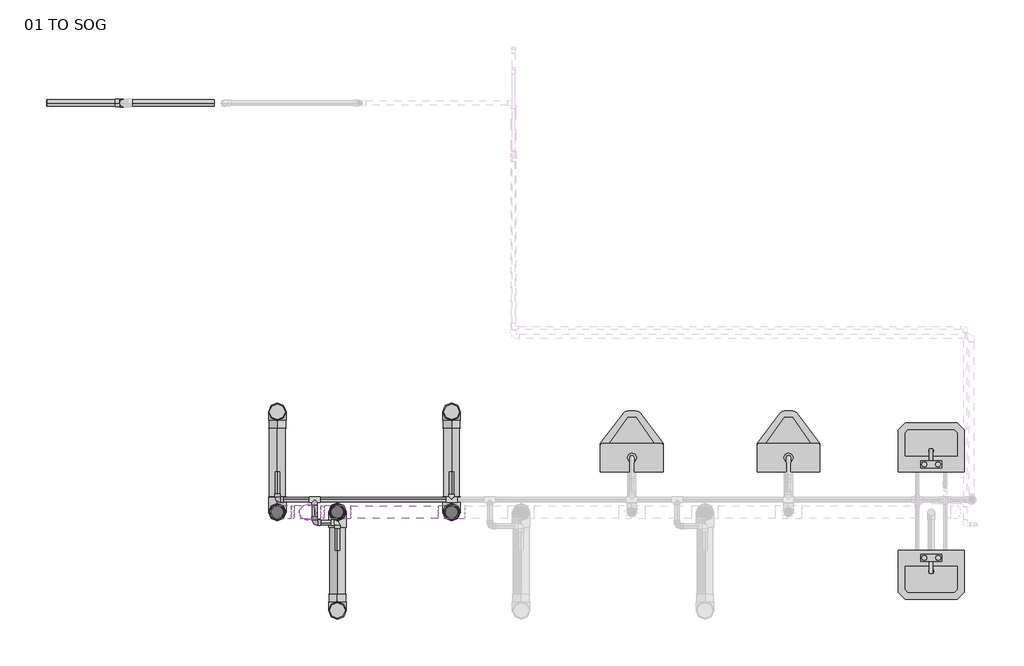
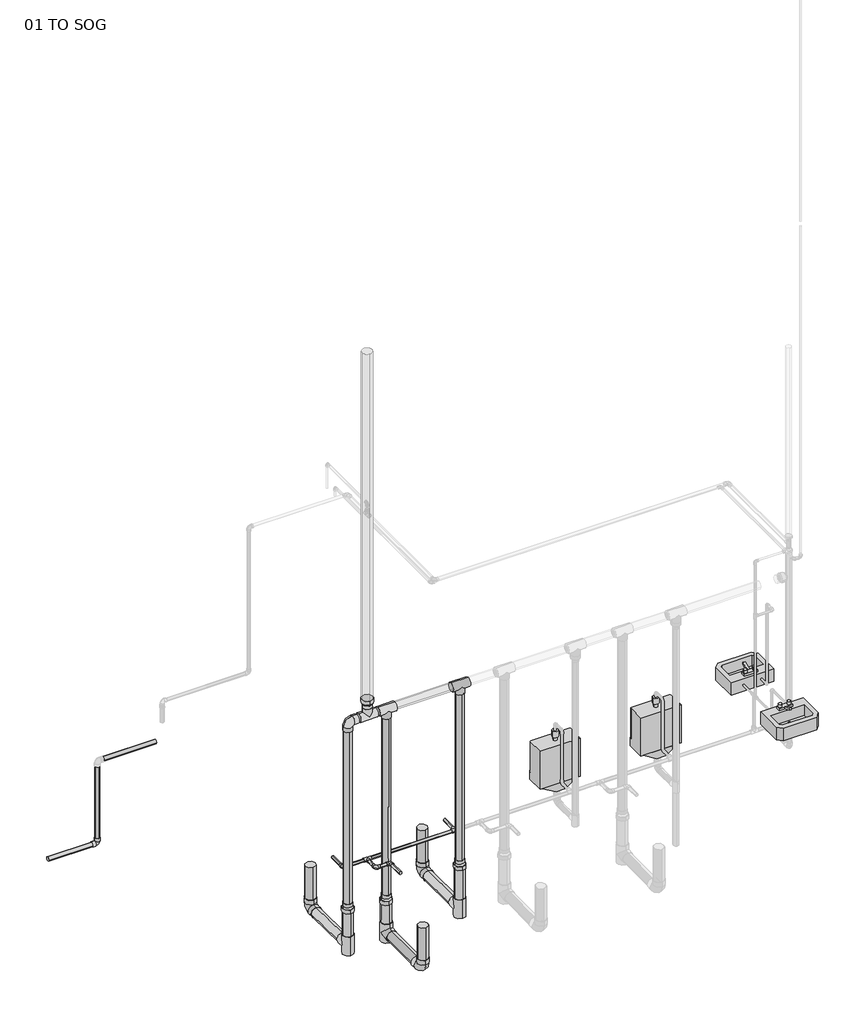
# One storey, part 1 of 4: 26 pipe segments, 20 pipe fittings, 4 flow terminals.
"""IFC4 building model written with IfcOpenShell, lengths in millimetres."""

from ifc_helpers import new_model, si_unit, point, frame, frame_2d, origin, place, context, project, spatial, circle_curve, trimmed, segment, composite_curve, outline, extrude, transform, mapped, element, save
from components import lavatory_wall_mounted_ac7d0257, urinal_wall_hung_30bb5849, elbow_pvc_sch_40_standard_c47e97bb, elbow_pvc_sch_40_standard_3ccf74f3, elbow_pvc_sch_40_standard_517a5a8d, elbow_pvc_sch_40_standard_abbfb362, reducer_pvc_sch_40_dwv_standard_bc2808fd, tee_pvc_sch_40_standard_9cddf13a, tee_pvc_sch_40_standard_9261842d, tee_pvc_sch_40_standard_72b35c3b

model = new_model("IFC4")

# Units and contexts
model_context = context("Model", 3, world=origin())
ifc_project = project(units=[si_unit("LENGTHUNIT", "METRE", prefix="MILLI")], contexts=[model_context])

# Site, building, storey
site = spatial("IfcSite", under=ifc_project)
building = spatial("IfcBuilding", under=site)
storey = spatial("IfcBuildingStorey", under=building, Name="01 TO SOG", Elevation=0.0)

# Flow terminals
placement = place(None, origin())
lavatory_wall_mounted_shape = lavatory_wall_mounted_ac7d0257(model_context)
element("IfcFlowTerminal", 1, ObjectType="Lavatory - Wall Mounted : D2010310_Lavatory_19\"x14\"Public", at=placement, inside=storey, context=model_context, shape_type="MappedRepresentation", body=[
    mapped(lavatory_wall_mounted_shape, transform((-12628.8862378, -4144.3703325, 863.1219792), x_axis=(-1.0, 0.0, 0.0), y_axis=(0.0, 0.0, 1.0), z_axis=(0.0, 1.0, 0.0))),
])
element("IfcFlowTerminal", 2, ObjectType="Lavatory - Wall Mounted : D2010310_Lavatory_19\"x14\"Public", at=placement, inside=storey, context=model_context, shape_type="MappedRepresentation", body=[
    mapped(lavatory_wall_mounted_shape, transform((-12628.3542617, -4719.0453325, 863.6), x_axis=(1.0, 0.0, 0.0), y_axis=(0.0, 0.0, 1.0), z_axis=(0.0, -1.0, 0.0))),
])
urinal_wall_hung_shape = urinal_wall_hung_30bb5849(model_context)
element("IfcFlowTerminal", 3, ObjectType="Urinal - Wall Hung : D2010210_Urinal_WallHung_3/4\" FlushValve", at=placement, inside=storey, context=model_context, shape_type="MappedRepresentation", body=[
    mapped(urinal_wall_hung_shape, transform((-14812.7542617, -4144.3703325, 431.8), x_axis=(-1.0, 0.0, 0.0), y_axis=(0.0, 0.0, 1.0), z_axis=(0.0, 1.0, 0.0))),
])
element("IfcFlowTerminal", 4, ObjectType="Urinal - Wall Hung : D2010210_Urinal_WallHung_3/4\" FlushValve", at=placement, inside=storey, context=model_context, shape_type="MappedRepresentation", body=[
    mapped(urinal_wall_hung_shape, transform((-13669.7542617, -4144.3703325, 431.8), x_axis=(-1.0, 0.0, 0.0), y_axis=(0.0, 0.0, 1.0), z_axis=(0.0, 1.0, 0.0))),
])

# Pipe fittings
elbow_pvc_sch_40_standard_shape = elbow_pvc_sch_40_standard_c47e97bb(model_context)
element("IfcPipeFitting", 5, ObjectType="Elbow - PVC - Sch 40 : Standard", at=placement, inside=storey, context=model_context, shape_type="MappedRepresentation", body=[
    mapped(elbow_pvc_sch_40_standard_shape, transform((-17399.6186686, -3706.2203325, -508.0), x_axis=(0.0, 0.0, -1.0), y_axis=(0.0, -1.0, 0.0), z_axis=(-1.0, 0.0, 0.0))),
])
element("IfcPipeFitting", 6, ObjectType="Elbow - PVC - Sch 40 : Standard", at=placement, inside=storey, context=model_context, shape_type="MappedRepresentation", body=[
    mapped(elbow_pvc_sch_40_standard_shape, transform((-16128.0974824, -3706.2203325, -508.0), x_axis=(0.0, 0.0, -1.0), y_axis=(0.0, -1.0, 0.0), z_axis=(-1.0, 0.0, 0.0))),
])
element("IfcPipeFitting", 7, ObjectType="Elbow - PVC - Sch 40 : Standard", at=placement, inside=storey, context=model_context, shape_type="MappedRepresentation", body=[
    mapped(elbow_pvc_sch_40_standard_shape, transform((-16961.4686686, -5157.1953325, -508.0), x_axis=(0.0, 0.0, -1.0), y_axis=(0.0, 1.0, 0.0), z_axis=(1.0, 0.0, 0.0))),
])
elbow_pvc_sch_40_standard_2_shape = elbow_pvc_sch_40_standard_3ccf74f3(model_context)
element("IfcPipeFitting", 8, ObjectType="Elbow - PVC - Sch 40 : Standard", at=placement, inside=storey, context=model_context, shape_type="MappedRepresentation", body=[
    mapped(elbow_pvc_sch_40_standard_2_shape, transform((-17399.6186686, -4439.7857603, 2163.7752), x_axis=(-1.0, 0.0, 0.0), y_axis=(0.0, 0.0, -1.0), z_axis=(0.0, -1.0, 0.0))),
])
elbow_pvc_sch_40_standard_3_shape = elbow_pvc_sch_40_standard_517a5a8d(model_context)
element("IfcPipeFitting", 9, ObjectType="Elbow - PVC - Sch 40 : Standard", at=placement, inside=storey, context=model_context, shape_type="MappedRepresentation", body=[
    mapped(elbow_pvc_sch_40_standard_3_shape, transform((-17399.6186686, -4347.5703325, 355.6), x_axis=(0.0, -1.0, 0.0), y_axis=(1.0, 0.0, 0.0), z_axis=(0.0, 0.0, 1.0))),
])
element("IfcPipeFitting", 10, ObjectType="Elbow - PVC - Sch 40 : Standard", at=placement, inside=storey, context=model_context, shape_type="MappedRepresentation", body=[
    mapped(elbow_pvc_sch_40_standard_3_shape, transform((-16961.4686686, -4515.8453325, 355.6), x_axis=(0.0, 1.0, 0.0), y_axis=(-1.0, 0.0, 0.0), z_axis=(0.0, 0.0, 1.0))),
])
element("IfcPipeFitting", 11, ObjectType="Elbow - PVC - Sch 40 : Standard", at=placement, inside=storey, context=model_context, shape_type="MappedRepresentation", body=[
    mapped(elbow_pvc_sch_40_standard_3_shape, transform((-17126.5686686, -4515.8453325, 355.6), x_axis=(0.0, -1.0, 0.0), y_axis=(1.0, 0.0, 0.0), z_axis=(0.0, 0.0, 1.0))),
])
elbow_pvc_sch_40_standard_4_shape = elbow_pvc_sch_40_standard_abbfb362(model_context)
element("IfcPipeFitting", 12, ObjectType="Elbow - PVC - Sch 40 : Standard", at=placement, inside=storey, context=model_context, shape_type="MappedRepresentation", body=[
    mapped(elbow_pvc_sch_40_standard_4_shape, transform((-18520.3605117, -1451.9703325, -711.2), x_axis=(0.0, 0.0, -1.0), y_axis=(-1.0, 0.0, 0.0), z_axis=(0.0, 1.0, 0.0))),
])
reducer_pvc_sch_40_dwv_standard_shape = reducer_pvc_sch_40_dwv_standard_bc2808fd(model_context)
element("IfcPipeFitting", 13, ObjectType="Reducer - PVC - Sch 40 - DWV : Standard", at=placement, inside=storey, context=model_context, shape_type="MappedRepresentation", body=[
    mapped(reducer_pvc_sch_40_dwv_standard_shape, transform((-16128.0974824, -4439.7857603, 72.7415065), x_axis=(0.0, 0.0, -1.0), y_axis=(1.0, 0.0, 0.0), z_axis=(0.0, -1.0, 0.0))),
])
element("IfcPipeFitting", 14, ObjectType="Reducer - PVC - Sch 40 - DWV : Standard", at=placement, inside=storey, context=model_context, shape_type="MappedRepresentation", body=[
    mapped(reducer_pvc_sch_40_dwv_standard_shape, transform((-17399.6186686, -4439.7857603, -3.4584935), x_axis=(0.0, 0.0, -1.0), y_axis=(1.0, 0.0, 0.0), z_axis=(0.0, -1.0, 0.0))),
])
element("IfcPipeFitting", 15, ObjectType="Reducer - PVC - Sch 40 - DWV : Standard", at=placement, inside=storey, context=model_context, shape_type="MappedRepresentation", body=[
    mapped(reducer_pvc_sch_40_dwv_standard_shape, transform((-16961.4686686, -4436.2966246, -54.4449557), x_axis=(0.0, 0.0015729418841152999, -0.9999987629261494), y_axis=(-1.0, 4.344944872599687e-12, 0.0), z_axis=(4.34495024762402e-12, 0.9999987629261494, 0.0015729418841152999))),
])
element("IfcPipeFitting", 16, ObjectType="Reducer - PVC - Sch 40 - DWV : Standard", at=placement, inside=storey, context=model_context, shape_type="MappedRepresentation", body=[
    mapped(reducer_pvc_sch_40_dwv_standard_shape, transform((-17177.9687436, -4439.7857603, 2260.6254), x_axis=(0.0, 0.0, 1.0), y_axis=(1.0, 0.0, 0.0), z_axis=(0.0, 1.0, 0.0))),
])
tee_pvc_sch_40_standard_shape = tee_pvc_sch_40_standard_9cddf13a(model_context)
element("IfcPipeFitting", 17, ObjectType="Tee - PVC - Sch 40 : Standard", at=placement, inside=storey, context=model_context, shape_type="MappedRepresentation", body=[
    mapped(tee_pvc_sch_40_standard_shape, transform((-17399.6186686, -4439.7857603, -500.3586935), x_axis=(0.0, 0.0, 1.0), y_axis=(0.0, -1.0, 0.0), z_axis=(1.0, 0.0, 0.0))),
])
element("IfcPipeFitting", 18, ObjectType="Tee - PVC - Sch 40 : Standard", at=placement, inside=storey, context=model_context, shape_type="MappedRepresentation", body=[
    mapped(tee_pvc_sch_40_standard_shape, transform((-16128.0974824, -4439.7857603, -500.3586935), x_axis=(0.0, 0.0, 1.0), y_axis=(0.0, -1.0, 0.0), z_axis=(1.0, 0.0, 0.0))),
])
element("IfcPipeFitting", 19, ObjectType="Tee - PVC - Sch 40 : Standard", at=placement, inside=storey, context=model_context, shape_type="MappedRepresentation", body=[
    mapped(tee_pvc_sch_40_standard_shape, transform((-16961.4686686, -4439.7857603, -500.5269836), x_axis=(0.0, 0.0, 1.0), y_axis=(0.0, 1.0, 0.0), z_axis=(-1.0, 0.0, 0.0))),
])
tee_pvc_sch_40_standard_2_shape = tee_pvc_sch_40_standard_9261842d(model_context)
element("IfcPipeFitting", 20, ObjectType="Tee - PVC - Sch 40 : Standard", at=placement, inside=storey, context=model_context, shape_type="MappedRepresentation", body=[
    mapped(tee_pvc_sch_40_standard_2_shape, transform((-16128.0974824, -4439.7857603, 2163.7752), x_axis=(1.0, 0.0, 0.0), y_axis=(0.0, 0.0, 1.0), z_axis=(0.0, -1.0, 0.0))),
])
element("IfcPipeFitting", 21, ObjectType="Tee - PVC - Sch 40 : Standard", at=placement, inside=storey, context=model_context, shape_type="MappedRepresentation", body=[
    mapped(tee_pvc_sch_40_standard_2_shape, transform((-16961.4686686, -4439.7857603, 2163.7752), x_axis=(-1.0, 0.0, 0.0), y_axis=(0.0, -0.0015729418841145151, 0.9999987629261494), z_axis=(0.0, 0.9999987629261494, 0.0015729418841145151))),
])
element("IfcPipeFitting", 22, ObjectType="Tee - PVC - Sch 40 : Standard", at=placement, inside=storey, context=model_context, shape_type="MappedRepresentation", body=[
    mapped(tee_pvc_sch_40_standard_2_shape, transform((-17177.9687436, -4439.7857603, 2163.7752), x_axis=(-1.0, 0.0, 0.0), y_axis=(0.0, 0.0, -1.0), z_axis=(0.0, -1.0, 0.0))),
])
tee_pvc_sch_40_standard_3_shape = tee_pvc_sch_40_standard_72b35c3b(model_context)
element("IfcPipeFitting", 23, ObjectType="Tee - PVC - Sch 40 : Standard", at=placement, inside=storey, context=model_context, shape_type="MappedRepresentation", body=[
    mapped(tee_pvc_sch_40_standard_3_shape, transform((-17126.5686686, -4347.5703325, 355.6), x_axis=(-1.0, 0.0, 0.0), y_axis=(0.0, 1.0, 0.0), z_axis=(0.0, 0.0, -1.0))),
])
element("IfcPipeFitting", 24, ObjectType="Tee - PVC - Sch 40 : Standard", at=placement, inside=storey, context=model_context, shape_type="MappedRepresentation", body=[
    mapped(tee_pvc_sch_40_standard_3_shape, transform((-16128.0974824, -4347.5703325, 355.6), x_axis=(-1.0, 0.0, 0.0), y_axis=(0.0, -1.0, 0.0), z_axis=(0.0, 0.0, 1.0))),
])

# Pipe segments
element("IfcPipeSegment", 25, ObjectType="Standard", at=placement, inside=storey, context=model_context, shape_type="SweptSolid", body=[
    extrude(outline(composite_curve([segment(trimmed(circle_curve(frame_2d((-17399.6186686, -3706.2203325)), 57.15), [point((-17342.4686686, -3706.2203325))], [point((-17399.6186686, -3763.3703325))], False, "CARTESIAN"), True, "CONTINUOUS"), segment(trimmed(circle_curve(frame_2d((-17399.6186686, -3706.2203325)), 57.15), [point((-17399.6186686, -3763.3703325))], [point((-17456.7686686, -3706.2203325))], False, "CARTESIAN"), True, "CONTINUOUS"), segment(trimmed(circle_curve(frame_2d((-17399.6186686, -3706.2203325)), 57.15), [point((-17456.7686686, -3706.2203325))], [point((-17399.6186686, -3649.0703325))], False, "CARTESIAN"), True, "CONTINUOUS"), segment(trimmed(circle_curve(frame_2d((-17399.6186686, -3706.2203325)), 57.15), [point((-17399.6186686, -3649.0703325))], [point((-17342.4686686, -3706.2203325))], False, "CARTESIAN"), True, "CONTINUOUS")], self_intersect=False)), frame((0.0, 0.0, -390.6328354), z_axis=(0.0, 0.0, 1.0), x_axis=(1.0, 0.0, 0.0)), (0.0, 0.0, 1.0), 390.6328354),
])
element("IfcPipeSegment", 26, ObjectType="Standard", at=placement, inside=storey, context=model_context, shape_type="SweptSolid", body=[
    extrude(outline(composite_curve([segment(trimmed(circle_curve(frame_2d((0.0, -57.15)), 57.15), [point((57.15, -57.15))], [point((0.0, -114.3000001))], False, "CARTESIAN"), True, "CONTINUOUS"), segment(trimmed(circle_curve(frame_2d((0.0, -57.15)), 57.15), [point((0.0, -114.3000001))], [point((-57.15, -57.15))], False, "CARTESIAN"), True, "CONTINUOUS"), segment(trimmed(circle_curve(frame_2d((0.0, -57.15)), 57.15), [point((-57.15, -57.15))], [point((0.0, 0.0))], False, "CARTESIAN"), True, "CONTINUOUS"), segment(trimmed(circle_curve(frame_2d((0.0, -57.15)), 57.15), [point((0.0, 0.0))], [point((57.15, -57.15))], False, "CARTESIAN"), True, "CONTINUOUS")], self_intersect=False)), frame((-17399.6186686, -3822.9858499, -449.630592), z_axis=(0.0, -0.9999457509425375, 0.010416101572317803), x_axis=(1.0, 0.0, 0.0)), (0.0, 0.0, 1.0), 505.1130605),
])
element("IfcPipeSegment", 27, ObjectType="Standard", at=placement, inside=storey, context=model_context, shape_type="SweptSolid", body=[
    extrude(outline(composite_curve([segment(trimmed(circle_curve(frame_2d((-17399.6186686, -4439.7857603)), 57.15), [point((-17456.7686686, -4439.7857603))], [point((-17399.6186686, -4382.6357603))], False, "CARTESIAN"), True, "CONTINUOUS"), segment(trimmed(circle_curve(frame_2d((-17399.6186686, -4439.7857603)), 57.15), [point((-17399.6186686, -4382.6357603))], [point((-17342.4686686, -4439.7857603))], False, "CARTESIAN"), True, "CONTINUOUS"), segment(trimmed(circle_curve(frame_2d((-17399.6186686, -4439.7857603)), 57.15), [point((-17342.4686686, -4439.7857603))], [point((-17399.6186686, -4496.9357603))], False, "CARTESIAN"), True, "CONTINUOUS"), segment(trimmed(circle_curve(frame_2d((-17399.6186686, -4439.7857603)), 57.15), [point((-17399.6186686, -4496.9357603))], [point((-17456.7686686, -4439.7857603))], False, "CARTESIAN"), True, "CONTINUOUS")], self_intersect=False)), frame((0.0, 0.0, -389.2336935), z_axis=(0.0, 0.0, 1.0), x_axis=(1.0, 0.0, 0.0)), (0.0, 0.0, 1.0), 279.4),
])
element("IfcPipeSegment", 28, ObjectType="Standard", at=placement, inside=storey, context=model_context, shape_type="SweptSolid", body=[
    extrude(outline(composite_curve([segment(trimmed(circle_curve(frame_2d((-16128.0974824, -3706.2203325)), 57.15), [point((-16070.9474824, -3706.2203325))], [point((-16128.0974824, -3763.3703325))], False, "CARTESIAN"), True, "CONTINUOUS"), segment(trimmed(circle_curve(frame_2d((-16128.0974824, -3706.2203325)), 57.15), [point((-16128.0974824, -3763.3703325))], [point((-16185.2474824, -3706.2203325))], False, "CARTESIAN"), True, "CONTINUOUS"), segment(trimmed(circle_curve(frame_2d((-16128.0974824, -3706.2203325)), 57.15), [point((-16185.2474824, -3706.2203325))], [point((-16128.0974824, -3649.0703325))], False, "CARTESIAN"), True, "CONTINUOUS"), segment(trimmed(circle_curve(frame_2d((-16128.0974824, -3706.2203325)), 57.15), [point((-16128.0974824, -3649.0703325))], [point((-16070.9474824, -3706.2203325))], False, "CARTESIAN"), True, "CONTINUOUS")], self_intersect=False)), frame((0.0, 0.0, -390.6328354), z_axis=(0.0, 0.0, 1.0), x_axis=(1.0, 0.0, 0.0)), (0.0, 0.0, 1.0), 390.6328354),
])
element("IfcPipeSegment", 29, ObjectType="Standard", at=placement, inside=storey, context=model_context, shape_type="SweptSolid", body=[
    extrude(outline(composite_curve([segment(trimmed(circle_curve(frame_2d((0.0, -57.15)), 57.15), [point((57.15, -57.15))], [point((0.0, -114.3000001))], False, "CARTESIAN"), True, "CONTINUOUS"), segment(trimmed(circle_curve(frame_2d((0.0, -57.15)), 57.15), [point((0.0, -114.3000001))], [point((-57.15, -57.15))], False, "CARTESIAN"), True, "CONTINUOUS"), segment(trimmed(circle_curve(frame_2d((0.0, -57.15)), 57.15), [point((-57.15, -57.15))], [point((0.0, 0.0))], False, "CARTESIAN"), True, "CONTINUOUS"), segment(trimmed(circle_curve(frame_2d((0.0, -57.15)), 57.15), [point((0.0, 0.0))], [point((57.15, -57.15))], False, "CARTESIAN"), True, "CONTINUOUS")], self_intersect=False)), frame((-16128.0974824, -3822.9858499, -449.630592), z_axis=(0.0, -0.999945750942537, 0.010416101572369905), x_axis=(1.0, 0.0, 0.0)), (0.0, 0.0, 1.0), 505.1130605),
])
element("IfcPipeSegment", 30, ObjectType="Standard", at=placement, inside=storey, context=model_context, shape_type="SweptSolid", body=[
    extrude(outline(composite_curve([segment(trimmed(circle_curve(frame_2d((-16128.0974824, -4439.7857603)), 57.15), [point((-16185.2474824, -4439.7857603))], [point((-16128.0974824, -4382.6357603))], False, "CARTESIAN"), True, "CONTINUOUS"), segment(trimmed(circle_curve(frame_2d((-16128.0974824, -4439.7857603)), 57.15), [point((-16128.0974824, -4382.6357603))], [point((-16070.9474824, -4439.7857603))], False, "CARTESIAN"), True, "CONTINUOUS"), segment(trimmed(circle_curve(frame_2d((-16128.0974824, -4439.7857603)), 57.15), [point((-16070.9474824, -4439.7857603))], [point((-16128.0974824, -4496.9357603))], False, "CARTESIAN"), True, "CONTINUOUS"), segment(trimmed(circle_curve(frame_2d((-16128.0974824, -4439.7857603)), 57.15), [point((-16128.0974824, -4496.9357603))], [point((-16185.2474824, -4439.7857603))], False, "CARTESIAN"), True, "CONTINUOUS")], self_intersect=False)), frame((0.0, 0.0, -389.2336935), z_axis=(0.0, 0.0, 1.0), x_axis=(1.0, 0.0, 0.0)), (0.0, 0.0, 1.0), 355.6),
])
element("IfcPipeSegment", 31, ObjectType="Standard", at=placement, inside=storey, context=model_context, shape_type="SweptSolid", body=[
    extrude(outline(composite_curve([segment(trimmed(circle_curve(frame_2d((-16961.4686686, -5157.1953325)), 57.15), [point((-16904.3186686, -5157.1953325))], [point((-16961.4686686, -5214.3453325))], False, "CARTESIAN"), True, "CONTINUOUS"), segment(trimmed(circle_curve(frame_2d((-16961.4686686, -5157.1953325)), 57.15), [point((-16961.4686686, -5214.3453325))], [point((-17018.6186686, -5157.1953325))], False, "CARTESIAN"), True, "CONTINUOUS"), segment(trimmed(circle_curve(frame_2d((-16961.4686686, -5157.1953325)), 57.15), [point((-17018.6186686, -5157.1953325))], [point((-16961.4686686, -5100.0453325))], False, "CARTESIAN"), True, "CONTINUOUS"), segment(trimmed(circle_curve(frame_2d((-16961.4686686, -5157.1953325)), 57.15), [point((-16961.4686686, -5100.0453325))], [point((-16904.3186686, -5157.1953325))], False, "CARTESIAN"), True, "CONTINUOUS")], self_intersect=False)), frame((0.0, 0.0, -390.6328354), z_axis=(0.0, 0.0, 1.0), x_axis=(1.0, 0.0, 0.0)), (0.0, 0.0, 1.0), 390.6328354),
])
element("IfcPipeSegment", 32, ObjectType="Standard", at=placement, inside=storey, context=model_context, shape_type="SweptSolid", body=[
    extrude(outline(composite_curve([segment(trimmed(circle_curve(frame_2d((0.0, -57.15)), 57.15), [point((-57.15, -57.15))], [point((0.0, 0.0))], False, "CARTESIAN"), True, "CONTINUOUS"), segment(trimmed(circle_curve(frame_2d((0.0, -57.15)), 57.15), [point((0.0, 0.0))], [point((57.15, -57.15))], False, "CARTESIAN"), True, "CONTINUOUS"), segment(trimmed(circle_curve(frame_2d((0.0, -57.15)), 57.15), [point((57.15, -57.15))], [point((0.0, -114.3000001))], False, "CARTESIAN"), True, "CONTINUOUS"), segment(trimmed(circle_curve(frame_2d((0.0, -57.15)), 57.15), [point((0.0, -114.3000001))], [point((-57.15, -57.15))], False, "CARTESIAN"), True, "CONTINUOUS")], self_intersect=False)), frame((-16961.4686686, -5039.2392547, -563.9243914), z_axis=(0.0, 0.999945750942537, 0.010416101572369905), x_axis=(1.0, 0.0, 0.0)), (0.0, 0.0, 1.0), 488.9563285),
])
element("IfcPipeSegment", 33, ObjectType="Standard", at=placement, inside=storey, context=model_context, shape_type="SweptSolid", body=[
    extrude(outline(composite_curve([segment(trimmed(circle_curve(frame_2d((0.0, 57.15)), 57.15), [point((57.15, 57.15))], [point((0.0, 0.0))], False, "CARTESIAN"), True, "CONTINUOUS"), segment(trimmed(circle_curve(frame_2d((0.0, 57.15)), 57.15), [point((0.0, 0.0))], [point((-57.15, 57.15))], False, "CARTESIAN"), True, "CONTINUOUS"), segment(trimmed(circle_curve(frame_2d((0.0, 57.15)), 57.15), [point((-57.15, 57.15))], [point((0.0, 114.3))], False, "CARTESIAN"), True, "CONTINUOUS"), segment(trimmed(circle_curve(frame_2d((0.0, 57.15)), 57.15), [point((0.0, 114.3))], [point((57.15, 57.15))], False, "CARTESIAN"), True, "CONTINUOUS")], self_intersect=False)), frame((-16961.4686686, -4496.9284499, -388.487914), z_axis=(0.0, 0.015994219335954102, 0.9998720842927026), x_axis=(1.0, 0.0, 0.0)), (0.0, 0.0, 1.0), 228.6112025),
])
element("IfcPipeSegment", 34, ObjectType="Standard", at=placement, inside=storey, context=model_context, shape_type="SweptSolid", body=[
    extrude(outline(composite_curve([segment(trimmed(circle_curve(frame_2d((-17399.6186686, -4439.7857603)), 44.45), [point((-17355.1686686, -4439.7857603))], [point((-17399.6186686, -4484.2357603))], False, "CARTESIAN"), True, "CONTINUOUS"), segment(trimmed(circle_curve(frame_2d((-17399.6186686, -4439.7857603)), 44.45), [point((-17399.6186686, -4484.2357603))], [point((-17444.0686686, -4439.7857603))], False, "CARTESIAN"), True, "CONTINUOUS"), segment(trimmed(circle_curve(frame_2d((-17399.6186686, -4439.7857603)), 44.45), [point((-17444.0686686, -4439.7857603))], [point((-17399.6186686, -4395.3357603))], False, "CARTESIAN"), True, "CONTINUOUS"), segment(trimmed(circle_curve(frame_2d((-17399.6186686, -4439.7857603)), 44.45), [point((-17399.6186686, -4395.3357603))], [point((-17355.1686686, -4439.7857603))], False, "CARTESIAN"), True, "CONTINUOUS")], self_intersect=False)), frame((0.0, 0.0, -3.4584935), z_axis=(0.0, 0.0, 1.0), x_axis=(1.0, 0.0, 0.0)), (0.0, 0.0, 1.0), 2065.2336435),
])
element("IfcPipeSegment", 35, ObjectType="Standard", at=placement, inside=storey, context=model_context, shape_type="SweptSolid", body=[
    extrude(outline(composite_curve([segment(trimmed(circle_curve(frame_2d((-16128.0974824, -4439.7857603)), 44.45), [point((-16083.6474824, -4439.7857603))], [point((-16128.0974824, -4484.2357603))], False, "CARTESIAN"), True, "CONTINUOUS"), segment(trimmed(circle_curve(frame_2d((-16128.0974824, -4439.7857603)), 44.45), [point((-16128.0974824, -4484.2357603))], [point((-16172.5474824, -4439.7857603))], False, "CARTESIAN"), True, "CONTINUOUS"), segment(trimmed(circle_curve(frame_2d((-16128.0974824, -4439.7857603)), 44.45), [point((-16172.5474824, -4439.7857603))], [point((-16128.0974824, -4395.3357603))], False, "CARTESIAN"), True, "CONTINUOUS"), segment(trimmed(circle_curve(frame_2d((-16128.0974824, -4439.7857603)), 44.45), [point((-16128.0974824, -4395.3357603))], [point((-16083.6474824, -4439.7857603))], False, "CARTESIAN"), True, "CONTINUOUS")], self_intersect=False)), frame((0.0, 0.0, 72.7415065), z_axis=(0.0, 0.0, 1.0), x_axis=(1.0, 0.0, 0.0)), (0.0, 0.0, 1.0), 1994.1834935),
])
element("IfcPipeSegment", 36, ObjectType="Standard", at=placement, inside=storey, context=model_context, shape_type="SweptSolid", body=[
    extrude(outline(composite_curve([segment(trimmed(circle_curve(frame_2d((0.0, -44.45)), 44.45), [point((-44.45, -44.45))], [point((0.0, 0.0))], False, "CARTESIAN"), True, "CONTINUOUS"), segment(trimmed(circle_curve(frame_2d((0.0, -44.45)), 44.45), [point((0.0, 0.0))], [point((44.45, -44.45))], False, "CARTESIAN"), True, "CONTINUOUS"), segment(trimmed(circle_curve(frame_2d((0.0, -44.45)), 44.45), [point((44.45, -44.45))], [point((0.0, -88.9))], False, "CARTESIAN"), True, "CONTINUOUS"), segment(trimmed(circle_curve(frame_2d((0.0, -44.45)), 44.45), [point((0.0, -88.9))], [point((-44.45, -44.45))], False, "CARTESIAN"), True, "CONTINUOUS")], self_intersect=False)), frame((-16961.4686686, -4480.7465696, -54.514873), z_axis=(0.0, -0.0015729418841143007, 0.9999987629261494), x_axis=(-1.0, 0.0, 0.0)), (0.0, 0.0, 1.0), 2121.3726998),
])
element("IfcPipeSegment", 37, ObjectType="Standard", at=placement, inside=storey, context=model_context, shape_type="SweptSolid", body=[
    extrude(outline(composite_curve([segment(trimmed(circle_curve(frame_2d((-4439.7857603, 2163.7752)), 44.45), [point((-4395.3357603, 2163.7752))], [point((-4439.7857603, 2119.3252))], False, "CARTESIAN"), True, "CONTINUOUS"), segment(trimmed(circle_curve(frame_2d((-4439.7857603, 2163.7752)), 44.45), [point((-4439.7857603, 2119.3252))], [point((-4484.2357603, 2163.7752))], False, "CARTESIAN"), True, "CONTINUOUS"), segment(trimmed(circle_curve(frame_2d((-4439.7857603, 2163.7752)), 44.45), [point((-4484.2357603, 2163.7752))], [point((-4439.7857603, 2208.2252))], False, "CARTESIAN"), True, "CONTINUOUS"), segment(trimmed(circle_curve(frame_2d((-4439.7857603, 2163.7752)), 44.45), [point((-4439.7857603, 2208.2252))], [point((-4395.3357603, 2163.7752))], False, "CARTESIAN"), True, "CONTINUOUS")], self_intersect=False)), frame((-16864.6184686, 0.0, 0.0), z_axis=(1.0, 0.0, 0.0), x_axis=(0.0, 1.0, 0.0)), (0.0, 0.0, 1.0), 639.6707862),
])
element("IfcPipeSegment", 38, ObjectType="Standard", at=placement, inside=storey, context=model_context, shape_type="SweptSolid", body=[
    extrude(outline(composite_curve([segment(trimmed(circle_curve(frame_2d((355.6, -17399.6186686)), 16.66875), [point((355.6, -17416.2874186))], [point((338.93125, -17399.6186686))], False, "CARTESIAN"), True, "CONTINUOUS"), segment(trimmed(circle_curve(frame_2d((355.6, -17399.6186686)), 16.66875), [point((338.93125, -17399.6186686))], [point((355.6, -17382.9499186))], False, "CARTESIAN"), True, "CONTINUOUS"), segment(trimmed(circle_curve(frame_2d((355.6, -17399.6186686)), 16.66875), [point((355.6, -17382.9499186))], [point((372.26875, -17399.6186686))], False, "CARTESIAN"), True, "CONTINUOUS"), segment(trimmed(circle_curve(frame_2d((355.6, -17399.6186686)), 16.66875), [point((372.26875, -17399.6186686))], [point((355.6, -17416.2874186))], False, "CARTESIAN"), True, "CONTINUOUS")], self_intersect=False)), frame((0.0, -4304.3077825, 0.0), z_axis=(0.0, 1.0, 0.0), x_axis=(0.0, 0.0, 1.0)), (0.0, 0.0, 1.0), 159.93745),
])
element("IfcPipeSegment", 39, ObjectType="Standard", at=placement, inside=storey, context=model_context, shape_type="SweptSolid", body=[
    extrude(outline(composite_curve([segment(trimmed(circle_curve(frame_2d((355.6, -16961.4686686)), 16.66875), [point((355.6, -16944.7999186))], [point((372.26875, -16961.4686686))], False, "CARTESIAN"), True, "CONTINUOUS"), segment(trimmed(circle_curve(frame_2d((355.6, -16961.4686686)), 16.66875), [point((372.26875, -16961.4686686))], [point((355.6, -16978.1374186))], False, "CARTESIAN"), True, "CONTINUOUS"), segment(trimmed(circle_curve(frame_2d((355.6, -16961.4686686)), 16.66875), [point((355.6, -16978.1374186))], [point((338.93125, -16961.4686686))], False, "CARTESIAN"), True, "CONTINUOUS"), segment(trimmed(circle_curve(frame_2d((355.6, -16961.4686686)), 16.66875), [point((338.93125, -16961.4686686))], [point((355.6, -16944.7999186))], False, "CARTESIAN"), True, "CONTINUOUS")], self_intersect=False)), frame((0.0, -4719.0453325, 0.0), z_axis=(0.0, 1.0, 0.0), x_axis=(0.0, 0.0, 1.0)), (0.0, 0.0, 1.0), 159.93745),
])
element("IfcPipeSegment", 40, ObjectType="Standard", at=placement, inside=storey, context=model_context, shape_type="SweptSolid", body=[
    extrude(outline(composite_curve([segment(trimmed(circle_curve(frame_2d((-4515.8453325, 355.6)), 16.66875), [point((-4499.1765825, 355.6))], [point((-4515.8453325, 338.93125))], False, "CARTESIAN"), True, "CONTINUOUS"), segment(trimmed(circle_curve(frame_2d((-4515.8453325, 355.6)), 16.66875), [point((-4515.8453325, 338.93125))], [point((-4532.5140825, 355.6))], False, "CARTESIAN"), True, "CONTINUOUS"), segment(trimmed(circle_curve(frame_2d((-4515.8453325, 355.6)), 16.66875), [point((-4532.5140825, 355.6))], [point((-4515.8453325, 372.26875))], False, "CARTESIAN"), True, "CONTINUOUS"), segment(trimmed(circle_curve(frame_2d((-4515.8453325, 355.6)), 16.66875), [point((-4515.8453325, 372.26875))], [point((-4499.1765825, 355.6))], False, "CARTESIAN"), True, "CONTINUOUS")], self_intersect=False)), frame((-17083.3061186, 0.0, 0.0), z_axis=(1.0, 0.0, 0.0), x_axis=(0.0, 1.0, 0.0)), (0.0, 0.0, 1.0), 78.5749),
])
element("IfcPipeSegment", 41, ObjectType="Standard", at=placement, inside=storey, context=model_context, shape_type="SweptSolid", body=[
    extrude(outline(composite_curve([segment(trimmed(circle_curve(frame_2d((355.6, -17126.5686686)), 16.66875), [point((355.6, -17109.8999186))], [point((372.26875, -17126.5686686))], False, "CARTESIAN"), True, "CONTINUOUS"), segment(trimmed(circle_curve(frame_2d((355.6, -17126.5686686)), 16.66875), [point((372.26875, -17126.5686686))], [point((355.6, -17143.2374186))], False, "CARTESIAN"), True, "CONTINUOUS"), segment(trimmed(circle_curve(frame_2d((355.6, -17126.5686686)), 16.66875), [point((355.6, -17143.2374186))], [point((338.93125, -17126.5686686))], False, "CARTESIAN"), True, "CONTINUOUS"), segment(trimmed(circle_curve(frame_2d((355.6, -17126.5686686)), 16.66875), [point((338.93125, -17126.5686686))], [point((355.6, -17109.8999186))], False, "CARTESIAN"), True, "CONTINUOUS")], self_intersect=False)), frame((0.0, -4472.5827825, 0.0), z_axis=(0.0, 1.0, 0.0), x_axis=(0.0, 0.0, 1.0)), (0.0, 0.0, 1.0), 85.31225),
])
element("IfcPipeSegment", 42, ObjectType="Standard", at=placement, inside=storey, context=model_context, shape_type="SweptSolid", body=[
    extrude(outline(composite_curve([segment(trimmed(circle_curve(frame_2d((-4347.5703325, 355.6)), 16.66875), [point((-4364.2390825, 355.6))], [point((-4347.5703325, 372.26875))], False, "CARTESIAN"), True, "CONTINUOUS"), segment(trimmed(circle_curve(frame_2d((-4347.5703325, 355.6)), 16.66875), [point((-4347.5703325, 372.26875))], [point((-4330.9015825, 355.6))], False, "CARTESIAN"), True, "CONTINUOUS"), segment(trimmed(circle_curve(frame_2d((-4347.5703325, 355.6)), 16.66875), [point((-4330.9015825, 355.6))], [point((-4347.5703325, 338.93125))], False, "CARTESIAN"), True, "CONTINUOUS"), segment(trimmed(circle_curve(frame_2d((-4347.5703325, 355.6)), 16.66875), [point((-4347.5703325, 338.93125))], [point((-4364.2390825, 355.6))], False, "CARTESIAN"), True, "CONTINUOUS")], self_intersect=False)), frame((-17356.3561186, 0.0, 0.0), z_axis=(1.0, 0.0, 0.0), x_axis=(0.0, 1.0, 0.0)), (0.0, 0.0, 1.0), 190.08725),
])
element("IfcPipeSegment", 43, ObjectType="Standard", at=placement, inside=storey, context=model_context, shape_type="SweptSolid", body=[
    extrude(outline(composite_curve([segment(trimmed(circle_curve(frame_2d((355.6, -16128.0974824)), 16.66875), [point((355.6, -16144.7662324))], [point((338.93125, -16128.0974824))], False, "CARTESIAN"), True, "CONTINUOUS"), segment(trimmed(circle_curve(frame_2d((355.6, -16128.0974824)), 16.66875), [point((338.93125, -16128.0974824))], [point((355.6, -16111.4287324))], False, "CARTESIAN"), True, "CONTINUOUS"), segment(trimmed(circle_curve(frame_2d((355.6, -16128.0974824)), 16.66875), [point((355.6, -16111.4287324))], [point((372.26875, -16128.0974824))], False, "CARTESIAN"), True, "CONTINUOUS"), segment(trimmed(circle_curve(frame_2d((355.6, -16128.0974824)), 16.66875), [point((372.26875, -16128.0974824))], [point((355.6, -16144.7662324))], False, "CARTESIAN"), True, "CONTINUOUS")], self_intersect=False)), frame((0.0, -4307.8701325, 0.0), z_axis=(0.0, 1.0, 0.0), x_axis=(0.0, 0.0, 1.0)), (0.0, 0.0, 1.0), 163.4998),
])
element("IfcPipeSegment", 44, ObjectType="Standard", at=placement, inside=storey, context=model_context, shape_type="SweptSolid", body=[
    extrude(outline(composite_curve([segment(trimmed(circle_curve(frame_2d((-4347.5703325, 355.6)), 16.66875), [point((-4364.2390825, 355.6))], [point((-4347.5703325, 372.26875))], False, "CARTESIAN"), True, "CONTINUOUS"), segment(trimmed(circle_curve(frame_2d((-4347.5703325, 355.6)), 16.66875), [point((-4347.5703325, 372.26875))], [point((-4330.9015825, 355.6))], False, "CARTESIAN"), True, "CONTINUOUS"), segment(trimmed(circle_curve(frame_2d((-4347.5703325, 355.6)), 16.66875), [point((-4330.9015825, 355.6))], [point((-4347.5703325, 338.93125))], False, "CARTESIAN"), True, "CONTINUOUS"), segment(trimmed(circle_curve(frame_2d((-4347.5703325, 355.6)), 16.66875), [point((-4347.5703325, 338.93125))], [point((-4364.2390825, 355.6))], False, "CARTESIAN"), True, "CONTINUOUS")], self_intersect=False)), frame((-17086.8684686, 0.0, 0.0), z_axis=(1.0, 0.0, 0.0), x_axis=(0.0, 1.0, 0.0)), (0.0, 0.0, 1.0), 919.0707862),
])
element("IfcPipeSegment", 45, ObjectType="Standard", at=placement, inside=storey, context=model_context, shape_type="SweptSolid", body=[
    extrude(outline(composite_curve([segment(trimmed(circle_curve(frame_2d((-1451.9703325, 272.25625)), 24.209375), [point((-1476.1797075, 272.25625))], [point((-1451.9703325, 296.465625))], False, "CARTESIAN"), True, "CONTINUOUS"), segment(trimmed(circle_curve(frame_2d((-1451.9703325, 272.25625)), 24.209375), [point((-1451.9703325, 296.465625))], [point((-1427.7609575, 272.25625))], False, "CARTESIAN"), True, "CONTINUOUS"), segment(trimmed(circle_curve(frame_2d((-1451.9703325, 272.25625)), 24.209375), [point((-1427.7609575, 272.25625))], [point((-1451.9703325, 248.046875))], False, "CARTESIAN"), True, "CONTINUOUS"), segment(trimmed(circle_curve(frame_2d((-1451.9703325, 272.25625)), 24.209375), [point((-1451.9703325, 248.046875))], [point((-1476.1797075, 272.25625))], False, "CARTESIAN"), True, "CONTINUOUS")], self_intersect=False)), frame((-18457.6415617, 0.0, 0.0), z_axis=(1.0, 0.0, 0.0), x_axis=(0.0, 1.0, 0.0)), (0.0, 0.0, 1.0), 597.68105),
])
element("IfcPipeSegment", 46, ObjectType="Standard", at=placement, inside=storey, context=model_context, shape_type="SweptSolid", body=[
    extrude(outline(composite_curve([segment(trimmed(circle_curve(frame_2d((-17177.9687436, -4439.7857603)), 57.15), [point((-17235.1187436, -4439.7857603))], [point((-17177.9687436, -4382.6357603))], False, "CARTESIAN"), True, "CONTINUOUS"), segment(trimmed(circle_curve(frame_2d((-17177.9687436, -4439.7857603)), 57.15), [point((-17177.9687436, -4382.6357603))], [point((-17120.8187436, -4439.7857603))], False, "CARTESIAN"), True, "CONTINUOUS"), segment(trimmed(circle_curve(frame_2d((-17177.9687436, -4439.7857603)), 57.15), [point((-17120.8187436, -4439.7857603))], [point((-17177.9687436, -4496.9357603))], False, "CARTESIAN"), True, "CONTINUOUS"), segment(trimmed(circle_curve(frame_2d((-17177.9687436, -4439.7857603)), 57.15), [point((-17177.9687436, -4496.9357603))], [point((-17235.1187436, -4439.7857603))], False, "CARTESIAN"), True, "CONTINUOUS")], self_intersect=False)), frame((0.0, 0.0, 2367.0006), z_axis=(0.0, 0.0, 1.0), x_axis=(1.0, 0.0, 0.0)), (0.0, 0.0, 1.0), 4164.6054312),
])
element("IfcPipeSegment", 47, ObjectType="Standard", at=placement, inside=storey, context=model_context, shape_type="SweptSolid", body=[
    extrude(outline(composite_curve([segment(trimmed(circle_curve(frame_2d((0.0, -44.45)), 44.45), [point((-44.45, -44.45))], [point((0.0, 0.0))], False, "CARTESIAN"), True, "CONTINUOUS"), segment(trimmed(circle_curve(frame_2d((0.0, -44.45)), 44.45), [point((0.0, 0.0))], [point((44.45, -44.45))], False, "CARTESIAN"), True, "CONTINUOUS"), segment(trimmed(circle_curve(frame_2d((0.0, -44.45)), 44.45), [point((44.45, -44.45))], [point((0.0, -88.9))], False, "CARTESIAN"), True, "CONTINUOUS"), segment(trimmed(circle_curve(frame_2d((0.0, -44.45)), 44.45), [point((0.0, -88.9))], [point((-44.45, -44.45))], False, "CARTESIAN"), True, "CONTINUOUS")], self_intersect=False)), frame((-17297.6186186, -4439.7857603, 2119.3252), z_axis=(1.0, -1.0942358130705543e-12, 0.0), x_axis=(-1.0942358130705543e-12, -1.0, 0.0)), (0.0, 0.0, 1.0), 22.799675),
])
element("IfcPipeSegment", 48, ObjectType="Standard", at=placement, inside=storey, context=model_context, shape_type="SweptSolid", body=[
    extrude(outline(composite_curve([segment(trimmed(circle_curve(frame_2d((-4439.7857603, 2163.7752)), 44.45), [point((-4395.3357603, 2163.7752))], [point((-4439.7857603, 2119.3252))], False, "CARTESIAN"), True, "CONTINUOUS"), segment(trimmed(circle_curve(frame_2d((-4439.7857603, 2163.7752)), 44.45), [point((-4439.7857603, 2119.3252))], [point((-4484.2357603, 2163.7752))], False, "CARTESIAN"), True, "CONTINUOUS"), segment(trimmed(circle_curve(frame_2d((-4439.7857603, 2163.7752)), 44.45), [point((-4484.2357603, 2163.7752))], [point((-4439.7857603, 2208.2252))], False, "CARTESIAN"), True, "CONTINUOUS"), segment(trimmed(circle_curve(frame_2d((-4439.7857603, 2163.7752)), 44.45), [point((-4439.7857603, 2208.2252))], [point((-4395.3357603, 2163.7752))], False, "CARTESIAN"), True, "CONTINUOUS")], self_intersect=False)), frame((-17081.1185436, 0.0, 0.0), z_axis=(1.0, 0.0, 0.0), x_axis=(0.0, 1.0, 0.0)), (0.0, 0.0, 1.0), 22.799675),
])
element("IfcPipeSegment", 49, ObjectType="Standard", at=placement, inside=storey, context=model_context, shape_type="SweptSolid", body=[
    extrude(outline(composite_curve([segment(trimmed(circle_curve(frame_2d((-18520.3605117, -1451.9703325)), 24.209375), [point((-18496.1511367, -1451.9703325))], [point((-18520.3605117, -1476.1797075))], False, "CARTESIAN"), True, "CONTINUOUS"), segment(trimmed(circle_curve(frame_2d((-18520.3605117, -1451.9703325)), 24.209375), [point((-18520.3605117, -1476.1797075))], [point((-18544.5698867, -1451.9703325))], False, "CARTESIAN"), True, "CONTINUOUS"), segment(trimmed(circle_curve(frame_2d((-18520.3605117, -1451.9703325)), 24.209375), [point((-18544.5698867, -1451.9703325))], [point((-18520.3605117, -1427.7609575))], False, "CARTESIAN"), True, "CONTINUOUS"), segment(trimmed(circle_curve(frame_2d((-18520.3605117, -1451.9703325)), 24.209375), [point((-18520.3605117, -1427.7609575))], [point((-18496.1511367, -1451.9703325))], False, "CARTESIAN"), True, "CONTINUOUS")], self_intersect=False)), frame((0.0, 0.0, -648.7853812), z_axis=(0.0, 0.0, 1.0), x_axis=(1.0, 0.0, 0.0)), (0.0, 0.0, 1.0), 858.3226812),
])
element("IfcPipeSegment", 50, ObjectType="Standard", at=placement, inside=storey, context=model_context, shape_type="SweptSolid", body=[
    extrude(outline(composite_curve([segment(trimmed(circle_curve(frame_2d((0.0, 24.209375)), 24.209375), [point((-24.209375, 24.209375))], [point((0.0, 48.41875))], False, "CARTESIAN"), True, "CONTINUOUS"), segment(trimmed(circle_curve(frame_2d((0.0, 24.209375)), 24.209375), [point((0.0, 48.41875))], [point((24.209375, 24.209375))], False, "CARTESIAN"), True, "CONTINUOUS"), segment(trimmed(circle_curve(frame_2d((0.0, 24.209375)), 24.209375), [point((24.209375, 24.209375))], [point((0.0, 0.0))], False, "CARTESIAN"), True, "CONTINUOUS"), segment(trimmed(circle_curve(frame_2d((0.0, 24.209375)), 24.209375), [point((0.0, 0.0))], [point((-24.209375, 24.209375))], False, "CARTESIAN"), True, "CONTINUOUS")], self_intersect=False)), frame((-18582.8031877, -1451.9703325, -736.0594716), z_axis=(-0.999999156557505, 0.0, 0.001298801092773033), x_axis=(0.0, -1.0, 0.0)), (0.0, 0.0, 1.0), 500.5516341),
])

save(model, "model.ifc")
